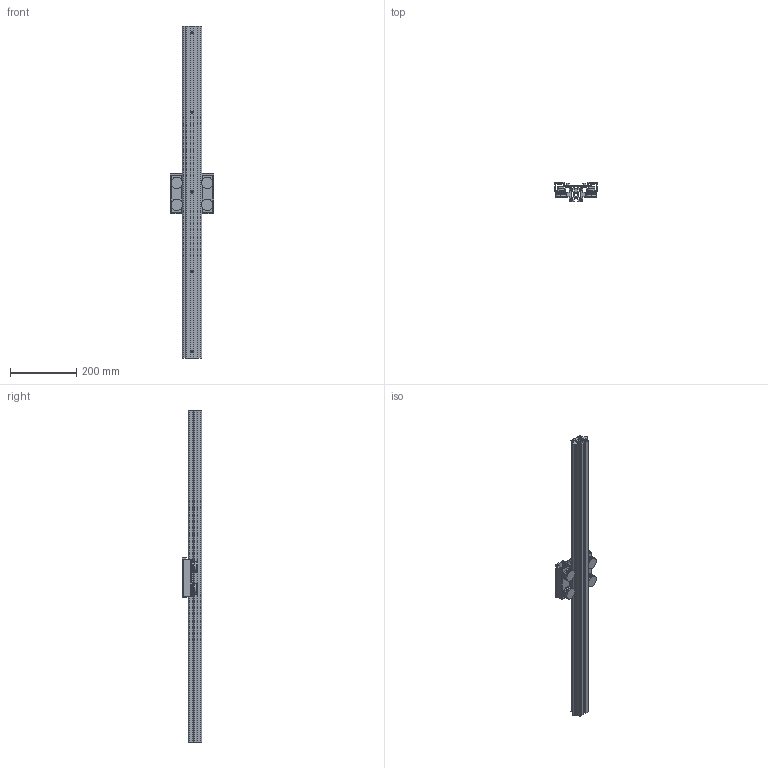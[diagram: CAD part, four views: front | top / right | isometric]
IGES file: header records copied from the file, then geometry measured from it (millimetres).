
Start section: SolidWorks IGES file using analytic representation for surfaces
Global section: file name: C:\Users\tsuch\OneDrive\デスクトップ\(作業中)LSR資料\LSR4040A.IGS; native system: SolidWorks 2019; preprocessor: SolidWorks 2019; author: tsuch; date: 200623.140736; units: millimetre
Bounding box: 130 x 58 x 1000 mm (x, y, z)
Volume: 1293402.7 mm3; surface area: 621031 mm2
Topology: 7 solids, 7 shells, 520 faces, 1303 edges, 832 vertices
Faces by surface type: plane 275, revolution 245
